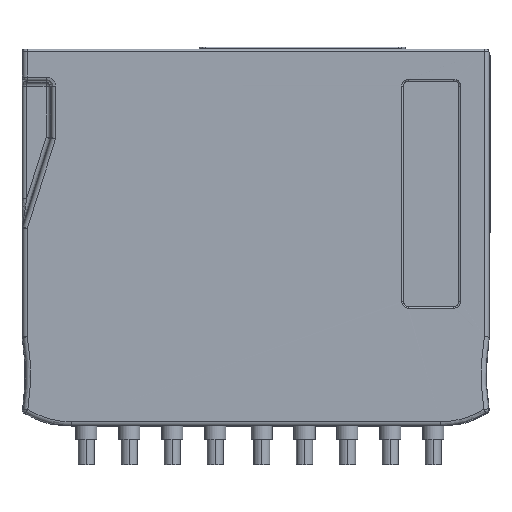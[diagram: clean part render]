
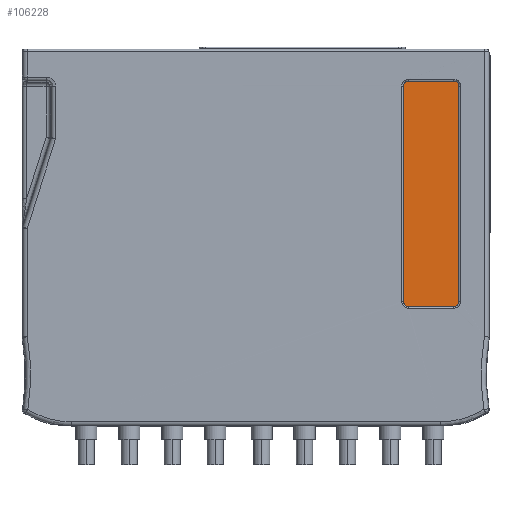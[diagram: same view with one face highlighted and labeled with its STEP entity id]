
A CAD part, left-side view. The second image highlights one B-rep face of the part: STEP entity #106228.
In plain terms, the highlighted planar face has unit normal (-1, 0, 0).
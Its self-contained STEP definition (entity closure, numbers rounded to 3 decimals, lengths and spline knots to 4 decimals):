
#37785=CARTESIAN_POINT('',(-0.2127,-1.747,-0.4835));
#37786=DIRECTION('',(1.,0.,0.));
#37787=DIRECTION('',(0.,-1.,0.));
#37788=AXIS2_PLACEMENT_3D('',#37785,#37786,#37787);
#37790=DIRECTION('',(0.,1.,0.));
#37791=VECTOR('',#37790,0.4);
#37792=CARTESIAN_POINT('',(-0.2127,-1.747,-0.5285));
#37793=LINE('',#37792,#37791);
#37794=CARTESIAN_POINT('',(-0.2127,-1.347,-0.4835));
#37795=DIRECTION('',(1.,0.,0.));
#37796=DIRECTION('',(0.,0.,-1.));
#37797=AXIS2_PLACEMENT_3D('',#37794,#37795,#37796);
#37799=DIRECTION('',(0.,0.,1.));
#37800=VECTOR('',#37799,1.9);
#37801=CARTESIAN_POINT('',(-0.2127,-1.302,-0.4835));
#37802=LINE('',#37801,#37800);
#37803=CARTESIAN_POINT('',(-0.2127,-1.347,1.4165));
#37804=DIRECTION('',(1.,0.,0.));
#37805=DIRECTION('',(0.,1.,0.));
#37806=AXIS2_PLACEMENT_3D('',#37803,#37804,#37805);
#37808=DIRECTION('',(0.,-1.,0.));
#37809=VECTOR('',#37808,0.4);
#37810=CARTESIAN_POINT('',(-0.2127,-1.347,1.4615));
#37811=LINE('',#37810,#37809);
#37812=CARTESIAN_POINT('',(-0.2127,-1.747,1.4165));
#37813=DIRECTION('',(1.,0.,0.));
#37814=DIRECTION('',(0.,0.,1.));
#37815=AXIS2_PLACEMENT_3D('',#37812,#37813,#37814);
#37817=DIRECTION('',(0.,0.,-1.));
#37818=VECTOR('',#37817,1.9);
#37819=CARTESIAN_POINT('',(-0.2127,-1.792,1.4165));
#37820=LINE('',#37819,#37818);
#48246=CARTESIAN_POINT('',(-0.2127,-1.792,-0.4835));
#48247=CARTESIAN_POINT('',(-0.2127,-1.747,-0.5285));
#48248=VERTEX_POINT('',#48246);
#48249=VERTEX_POINT('',#48247);
#48252=CARTESIAN_POINT('',(-0.2127,-1.347,-0.5285));
#48253=VERTEX_POINT('',#48252);
#48255=CARTESIAN_POINT('',(-0.2127,-1.302,-0.4835));
#48256=VERTEX_POINT('',#48255);
#48258=CARTESIAN_POINT('',(-0.2127,-1.302,1.4165));
#48259=VERTEX_POINT('',#48258);
#48261=CARTESIAN_POINT('',(-0.2127,-1.347,1.4615));
#48262=VERTEX_POINT('',#48261);
#48264=CARTESIAN_POINT('',(-0.2127,-1.747,1.4615));
#48265=VERTEX_POINT('',#48264);
#48267=CARTESIAN_POINT('',(-0.2127,-1.792,1.4165));
#48268=VERTEX_POINT('',#48267);
#106206=CARTESIAN_POINT('',(-0.2127,0.0005,1.7265));
#106207=DIRECTION('',(-1.,0.,0.));
#106208=DIRECTION('',(0.,0.,-1.));
#106209=AXIS2_PLACEMENT_3D('',#106206,#106207,#106208);
#106210=PLANE('',#106209);
#106211=ORIENTED_EDGE('',*,*,#106196,.T.);
#106213=ORIENTED_EDGE('',*,*,#106212,.T.);
#106215=ORIENTED_EDGE('',*,*,#106214,.T.);
#106217=ORIENTED_EDGE('',*,*,#106216,.T.);
#106219=ORIENTED_EDGE('',*,*,#106218,.T.);
#106221=ORIENTED_EDGE('',*,*,#106220,.T.);
#106223=ORIENTED_EDGE('',*,*,#106222,.T.);
#106225=ORIENTED_EDGE('',*,*,#106224,.T.);
#106226=EDGE_LOOP('',(#106211,#106213,#106215,#106217,#106219,#106221,#106223,
#106225));
#106227=FACE_OUTER_BOUND('',#106226,.F.);
#106228=ADVANCED_FACE('',(#106227),#106210,.T.);
#37789=CIRCLE('',#37788,0.045);
#37798=CIRCLE('',#37797,0.045);
#37807=CIRCLE('',#37806,0.045);
#37816=CIRCLE('',#37815,0.045);
#106196=EDGE_CURVE('',#48248,#48249,#37789,.T.);
#106212=EDGE_CURVE('',#48249,#48253,#37793,.T.);
#106214=EDGE_CURVE('',#48253,#48256,#37798,.T.);
#106216=EDGE_CURVE('',#48256,#48259,#37802,.T.);
#106218=EDGE_CURVE('',#48259,#48262,#37807,.T.);
#106220=EDGE_CURVE('',#48262,#48265,#37811,.T.);
#106222=EDGE_CURVE('',#48265,#48268,#37816,.T.);
#106224=EDGE_CURVE('',#48268,#48248,#37820,.T.);
